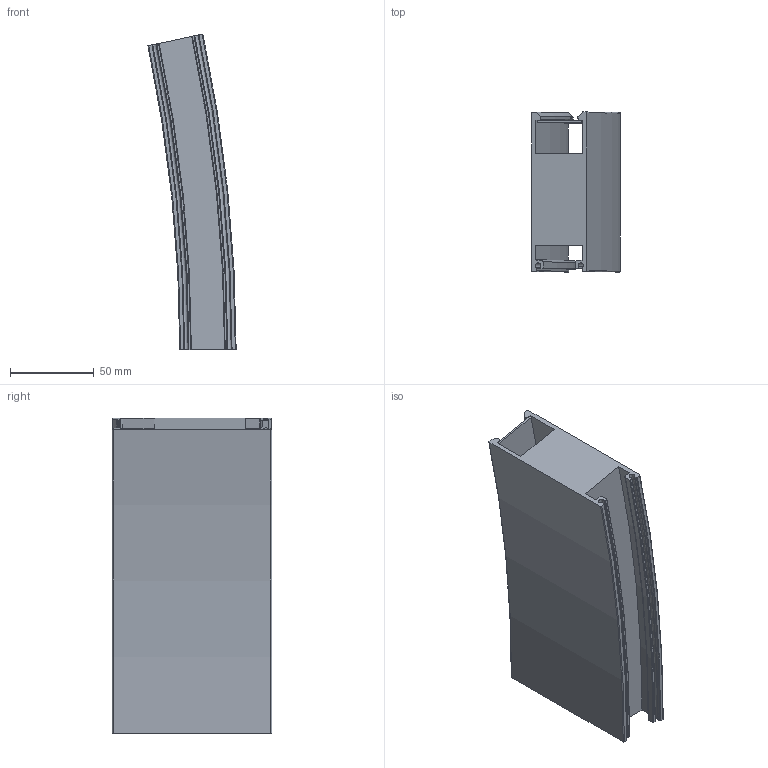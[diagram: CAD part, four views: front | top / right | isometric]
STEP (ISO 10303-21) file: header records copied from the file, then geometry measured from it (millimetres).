
FILE_DESCRIPTION(/* description */ (''),/* implementation_level */ '2;1');
FILE_NAME(/* name */ 'Evelo S R900 Blank Assembly.stp',/* time_stamp */ '2024-09-20T17:08:31+10:00',/* author */ ('Mlight Projects'),/* organization */ (''),/* preprocessor_version */ 'ST-DEVELOPER v20',/* originating_system */ 'Autodesk Inventor 2024',/* authorisation */ '');
FILE_SCHEMA (('AUTOMOTIVE_DESIGN { 1 0 10303 214 3 1 1 }'));
Length unit declared in the file: millimetre
Products named in the file (3): Evelo S R900 Optics Assembly; Body R200; Blanks R300
Assembly tree (2 placements, depth 2):
  Evelo S R900 Optics Assembly
    Body R200
    Blanks R300
Bounding box: 52.66 x 95.1 x 188.33 mm (x, y, z)
Volume: 394142.6 mm3; surface area: 84484 mm2
Topology: 2 solids, 2 shells, 66 faces, 186 edges, 124 vertices
Faces by surface type: torus 28, plane 18, cylinder 12, cone 8
Entity records: 2315 total; most frequent: DIRECTION 446, CARTESIAN_POINT 381, ORIENTED_EDGE 372, AXIS2_PLACEMENT_3D 189, EDGE_CURVE 186, VERTEX_POINT 124, CIRCLE 118, LINE 68
